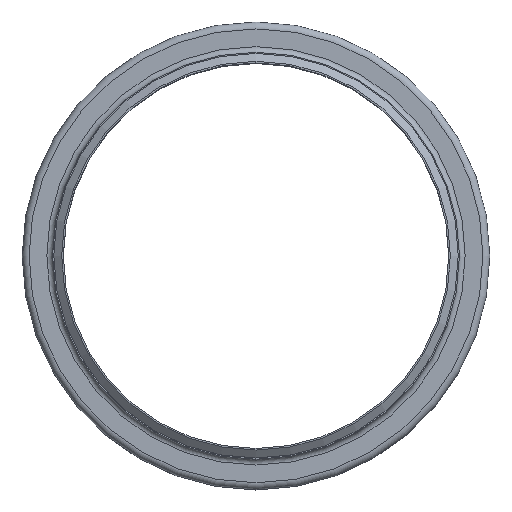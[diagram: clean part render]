
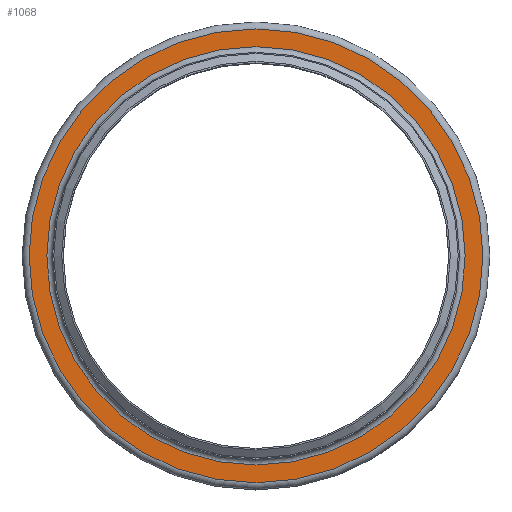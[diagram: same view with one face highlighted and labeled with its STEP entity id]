
A CAD part, top view. The second image highlights one B-rep face of the part: STEP entity #1068.
In plain terms, the highlighted planar face has unit normal (0, 0, 1).
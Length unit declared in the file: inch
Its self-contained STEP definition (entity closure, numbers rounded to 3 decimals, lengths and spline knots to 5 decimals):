
#102=FACE_BOUND('',#282,.T.);
#171=FACE_OUTER_BOUND('',#281,.T.);
#281=EDGE_LOOP('',(#824));
#282=EDGE_LOOP('',(#825));
#402=CIRCLE('',#1264,8.274);
#403=CIRCLE('',#1266,8.976);
#491=VERTEX_POINT('',#1935);
#492=VERTEX_POINT('',#1939);
#606=EDGE_CURVE('',#491,#491,#402,.T.);
#607=EDGE_CURVE('',#492,#492,#403,.T.);
#824=ORIENTED_EDGE('',*,*,#607,.F.);
#825=ORIENTED_EDGE('',*,*,#606,.T.);
#918=PLANE('',#1265);
#1068=ADVANCED_FACE('',(#171,#102),#918,.T.);
#1264=AXIS2_PLACEMENT_3D('',#1937,#1621,#1622);
#1265=AXIS2_PLACEMENT_3D('',#1938,#1623,#1624);
#1266=AXIS2_PLACEMENT_3D('',#1940,#1625,#1626);
#1621=DIRECTION('center_axis',(0.,0.,
-1.));
#1622=DIRECTION('ref_axis',(1.,0.,0.));
#1623=DIRECTION('center_axis',(0.,0.,
1.));
#1624=DIRECTION('ref_axis',(1.,0.,0.));
#1625=DIRECTION('center_axis',(0.,0.,
-1.));
#1626=DIRECTION('ref_axis',(1.,0.,0.));
#1935=CARTESIAN_POINT('',(8.274,0.,-1.726));
#1937=CARTESIAN_POINT('Origin',(0.,0.,
-1.726));
#1938=CARTESIAN_POINT('Origin',(0.,8.976,-1.726));
#1939=CARTESIAN_POINT('',(8.976,0.,-1.726));
#1940=CARTESIAN_POINT('Origin',(0.,0.,
-1.726));
